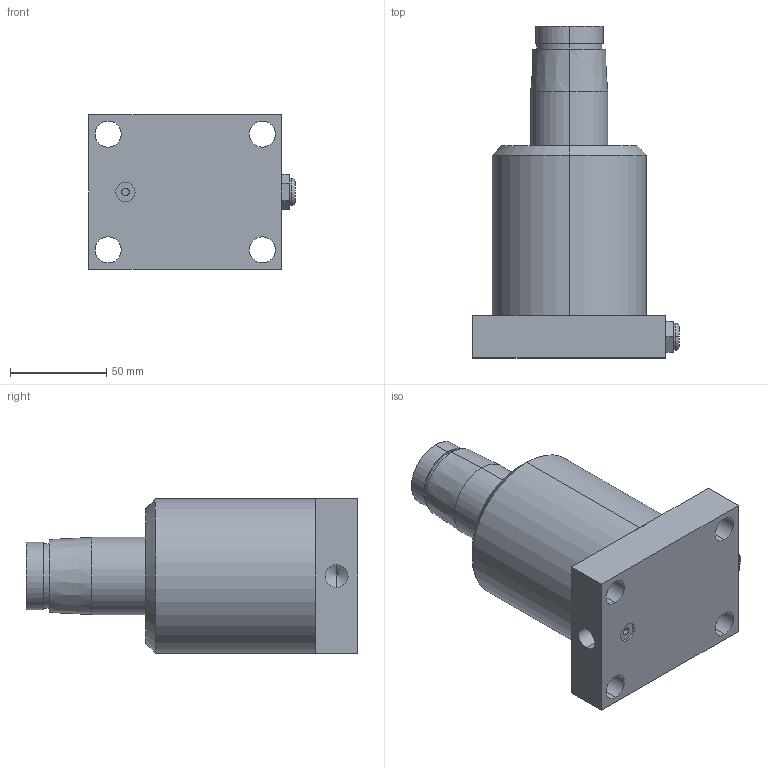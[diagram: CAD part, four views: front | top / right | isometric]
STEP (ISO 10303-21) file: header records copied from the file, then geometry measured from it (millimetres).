
FILE_DESCRIPTION (( 'STEP AP214' ), '1' );
FILE_NAME ('#HPS-50SB.STEP', '2021-10-18T08:29:31', ( '' ), ( '' ), 'SwSTEP 2.0', 'SolidWorks 2016', '' );
FILE_SCHEMA (( 'AUTOMOTIVE_DESIGN' ));
Length unit declared in the file: millimetre
Products named in the file (1): #HPS-50SB
Bounding box: 107 x 172 x 80 mm (x, y, z)
Volume: 672788.3 mm3; surface area: 57239.2 mm2
Topology: 1 solids, 2 shells, 58 faces, 130 edges, 80 vertices
Faces by surface type: cylinder 26, plane 22, cone 8, torus 2
Entity records: 1708 total; most frequent: DIRECTION 304, CARTESIAN_POINT 265, ORIENTED_EDGE 252, EDGE_CURVE 126, AXIS2_PLACEMENT_3D 119, VERTEX_POINT 80, EDGE_LOOP 74, VECTOR 66
